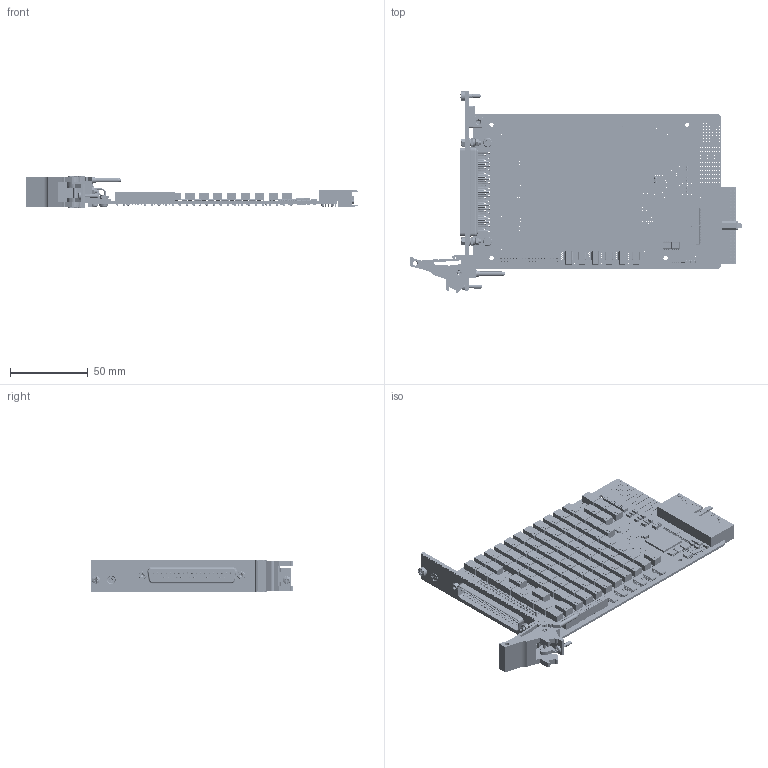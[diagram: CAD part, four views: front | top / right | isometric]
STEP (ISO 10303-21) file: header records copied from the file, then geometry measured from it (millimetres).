
FILE_DESCRIPTION (( 'STEP AP214' ), '1' );
FILE_NAME ('40-297A-135 PXI High Density Precision Resistor Module 4-Chan 2Ohm - 201kOhm 4Ohm Resolution.step', '2025-05-29T13:46:03', ( '' ), ( '' ), 'SwSTEP 2.0', 'SolidWorks 2023', '' );
FILE_SCHEMA (( 'AUTOMOTIVE_DESIGN' ));
Length unit declared in the file: millimetre
Products named in the file (95): C-RS-879 RES 470R 0204 0.25W 0.1% 15PPM; C-RS-889 RES 47K 0204 0.25W 0.1% 15PPM; C-CN-073 WASHER plain; A-FP-399 1 x 37 Way D  FP + Label; C-RS-877 RES 240R 0204 0.25W 0.1% 15PPM; C-RS-876 RES 130R 0204 0.25W 0.1% 15PPM; C-CN-073 Screwlock 8mm Screw Lenght_2.7 space; C-SC-146 Dual Transistor SOT-14; C-CP-124 CAP 10nF CERAMIC SMT 0402; C-CN-073-SCREW 4-40 UNC Screwlock_5mm Hexagonal spacer; C-FX-165 CPCI Ejector Handle; C-RS-917 RES 390K 0204 0.25W 1% 50PPM; C-PC-1383 Programmable Resistor Motherboard; A-PC-1383-X35-# Programmable Resistor Motherboard; C-RS-890 RES 68K 0204 0.25W 0.1% 15PPM; Z-FX-2001 FP Fixing - Bush + Screw; C-MS-803 BEAD 120R 0603 2A 0R05 25%; C-RS-882 RES 1K8 0204 0.25W 0.1% 15PPM; L-FX-165 PXI Handle Label; A-PC-1383-X35 Programmable Resistor Motherboard; C-RS-914 RES 100K 0204 0.25W 0.1% 15PPM; C-CN-135 37 Way D Connector_RS 446-490; C-FX-1176 M2,5 Collar Posi-Slot Screw; C-RS-881 RES 910R 0204 0.25W 0.1% 15PPM; 40-297A-135 PXI High Density Precision Resistor Module 4-Chan 2Ohm - 201kOhm 4Ohm Resolution; C-CN-355 Compact pci connector 3; C-FX-165 Handle Finger; C-RS-885 RES 3K9 0204 0.25W 0.1% 15PPM; L-FP-399-# PXI FP Label; C-RS-884 RES 2K4 0204 0.25W 0.1% 15PPM; C-FX-025 Pcb Mounting Bracket; C-IC-546 24 BIT BUS SWITCH 56PIN TVSOP; C-IC-226  16 Bit Driver IC; C-SC-056 80V 250mA (DC) SOD323 Diode; C-FX-165 Handle Pin; L-FP-399 PXI 3U 1SLT 37W D FP Label Assy; C-RS-862 0204 Surface Mount; C-FX-042 Screw M2.5x6 CSK Pozi_M 2.5x06 - C-FX-042; C-CP-034; C-RS-912 RES 13K 0204 0.25W 0.1% 15PPM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
Assembly tree (566 placements, depth 5):
  40-297A-135 PXI High Density Precision Resistor Module 4-Chan 2Ohm - 201kOhm 4Ohm Resolution
    A-PC-1383-X35 Programmable Resistor Motherboard
      A-PC-1383-X35-# Programmable Resistor Motherboard
        C-PC-1383 Programmable Resistor Motherboard
        C-CN-1579 2 X 19 WAY HEADER ST F TH
        C-RS-190 Res 0R0 SIZE 0603 SMT
        C-CP-239  Power Line Filter  x4
        C-CP-175 CAP 22uF 1206 25V X5R 10%  x2
        C-CP-141 CAP 10UF 1206 35V X5R 10%  x7
        C-RL-260 Signal Relay Surface Mount_No Text  x87
        C-CN-1462 2 x 15 WAY HEADER ST F SM
        C-IC-226  16 Bit Driver IC  x6
        C-IC-489 F-RAM Semiconductor Serial-I2C FRAM Memory 512kbit 2-3.6 V 8-Pin SOIC  x2
        C-RS-862 0204 Surface Mount  x18
        C-RS-886 RES 0204  x5
        C-RS-877 RES 240R 0204 0.25W 0.1% 15PPM  x15
        C-RS-884 RES 2K4 0204 0.25W 0.1% 15PPM  x10
        C-RS-876 RES 130R 0204 0.25W 0.1% 15PPM  x10
        C-RS-875 RES 62R 0204 0.25W 0.1% 15PPM  x10
        C-RS-880 RES 680R 0204 0.25W 0.1% 15PPM  x5
        C-RS-874 RES 0204 33R 0.25W 1% 50PPM  x10
        C-RS-878 RES 430R 0204 0.25W 0.1% 15PPM  x5
        C-RS-872 RES 15R 0204 0.25W 1% 50PPM  x5
        C-RS-873 RES 0204 18R 0.25W 1% 50PPM  x5
        C-RS-870 RES 0204 6R8 0.25W 1% 50PPM  x5
        C-RS-871 RES 10R 0204 0.25W 1% 50PPM  x5
        C-RS-868 RES 0204 3R3 0.25W 1% 50PPM  x5
        C-RS-869 RES 0204 4R7 0.25W 1% 50PPM  x5
        C-RS-866 RES 0204 1R8 0.25W 1% 50PPM  x5
        C-RS-867 RES 0204 2R2 0.25W 1% 50PPM  x5
        C-RS-922 RES 0204 3M3 0.25W 1% 50PPM  x4
        C-RS-913 RES 51K 0204 0.25W 0.1% 15PPM  x16
        C-RS-914 RES 100K 0204 0.25W 0.1% 15PPM  x4
        C-RS-920 RES 0204 2M2 0.25W 1% 50PPM  x4
        C-RS-912 RES 13K 0204 0.25W 0.1% 15PPM  x8
        C-RS-917 RES 390K 0204 0.25W 1% 50PPM  x4
        C-RS-911 RES 6K8 0204 0.25W 0.1% 15PPM  x8
        C-RS-889 RES 47K 0204 0.25W 0.1% 15PPM  x8
        C-RS-885 RES 3K9 0204 0.25W 0.1% 15PPM  x8
        C-RS-890 RES 68K 0204 0.25W 0.1% 15PPM  x4
        C-RS-882 RES 1K8 0204 0.25W 0.1% 15PPM  x8
        C-RS-881 RES 910R 0204 0.25W 0.1% 15PPM  x8
        C-RS-887 RES 16K 0204 0.25W 0.1% 15PPM  x4
        C-RS-879 RES 470R 0204 0.25W 0.1% 15PPM  x8
        C-RS-254 Res  0603  x6
        C-SC-056 80V 250mA (DC) SOD323 Diode  x90
        C-CP-034  x22
        C-RS-152 Res 10K 0603 1-16W 1% 300PPM  x2
        C-RS-147 Res 100R 0603 1-16W 1% 100PPM
        C-CP-099 CAP 0.1uF 16V 0402 SMT  x12
        C-IC-425 SOICN 8PIN SD
        C-IC-426 32-Flash Memory Standard Serial NOR 32Mbit SPI WSOIC-8
        C-IC-442 VSSOP 8PIN SD
        C-IC-458 LDO VOLTAGE REGULATOR 1.2V SOT
        C-IC-546 24 BIT BUS SWITCH 56PIN TVSOP  x2
        C-IC-369 FPGA 17000 Cells 65nm Technology 1.2V 256-Pin FTBGA
        C-RS-148 Res 1K 0603 1-16W 1% 100PPM  x2
        C-RS-659 RES NW 4K7 4RES 8PINS SMT1206  x4
        C-RS-521 Res 120R (0603) 1-16W 1% 100pp
        C-SC-146 Dual Transistor SOT-14  x2
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Bounding box: 213.7 x 129.63 x 20 mm (x, y, z)
Volume: 79919.7 mm3; surface area: 105009.8 mm2
Topology: 568 solids, 595 shells, 32719 faces, 80406 edges, 50660 vertices
Faces by surface type: plane 20250, cylinder 9490, torus 1665, sphere 732, cone 421, bspline 161
Entity records: 521079 total; most frequent: CARTESIAN_POINT 71074, DIRECTION 70637, ORIENTED_EDGE 64264, EDGE_CURVE 32134, AXIS2_PLACEMENT_3D 25662, VERTEX_POINT 20533, VECTOR 19313, LINE 19313
